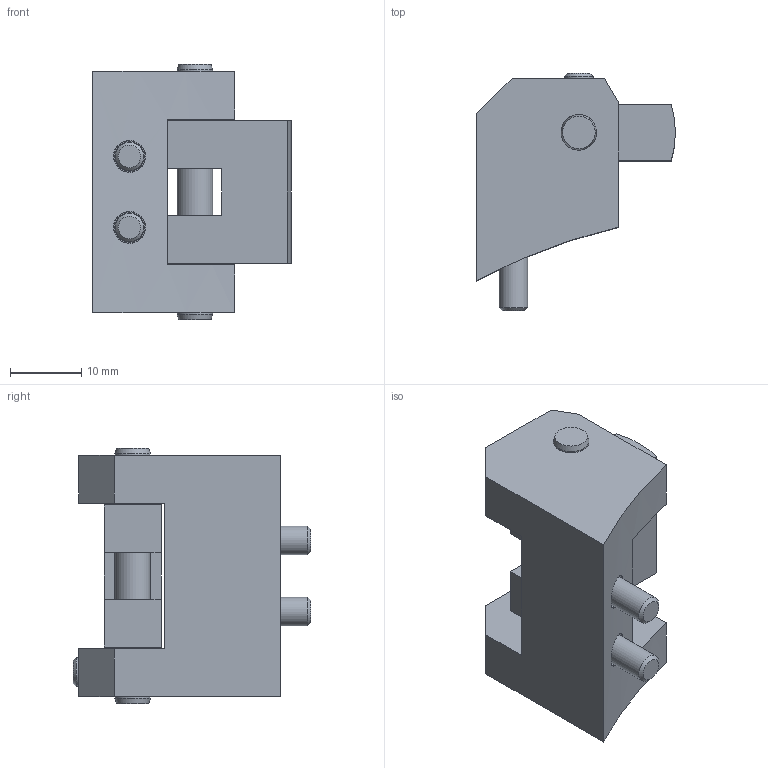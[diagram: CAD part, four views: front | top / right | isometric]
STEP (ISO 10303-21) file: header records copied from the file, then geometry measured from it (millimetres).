
FILE_DESCRIPTION(/* description */ (''),/* implementation_level */ '2;1');
FILE_NAME(/* name */ '\\dc01\daten\CAD\Standard\Daten\3D-Datenbank\SWS\4 - 3D-CAD-Daten SWS 050-160\SWS160\EG-SWS160-VS2.stp',/* time_stamp */ '2016-11-11T11:30:20+01:00',/* author */ ('ysplieth'),/* organization */ (''),/* preprocessor_version */ 'ST-DEVELOPER v15.2',/* originating_system */ 'Autodesk Inventor 2014',/* authorisation */ '');
FILE_SCHEMA (('AUTOMOTIVE_DESIGN { 1 0 10303 214 3 1 1 }'));
Length unit declared in the file: millimetre
Products named in the file (1): Bauteil1
Bounding box: 28 x 33.5 x 36 mm (x, y, z)
Volume: 12186.6 mm3; surface area: 6889.1 mm2
Topology: 2 solids, 4 shells, 89 faces, 202 edges, 132 vertices
Faces by surface type: plane 55, cylinder 20, cone 10, torus 4
Full cylindrical faces by diameter (mm): 4 x3, 4.5 x2, 5 x3, 5.1 x2, 7 x2, 8 x2
Entity records: 2512 total; most frequent: CARTESIAN_POINT 543, DIRECTION 368, ORIENTED_EDGE 340, EDGE_CURVE 170, AXIS2_PLACEMENT_3D 135, EDGE_LOOP 132, VERTEX_POINT 126, LINE 98
